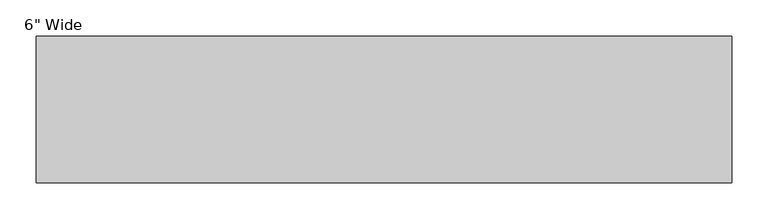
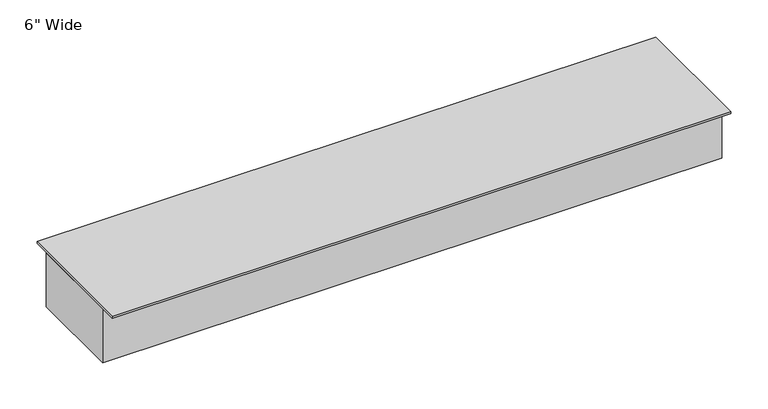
"""IFC4 building model written with IfcOpenShell, lengths in millimetres: proxy geometry."""

from ifc_helpers import new_model, si_unit, frame, origin, place, context, project, spatial, polyline, outline, extrude, source, transform, mapped, element, save


def proxy_89a9898e(model_context):
    return source(origin(), model_context, "Body", "SweptSolid", [
        extrude(outline(polyline([(965.2, 101.6), (965.2, -101.6), (0.0, -101.6), (0.0, 101.6), (965.2, 101.6)])), frame((0.0, 0.0, -3.175), z_axis=(0.0, 0.0, 1.0), x_axis=(1.0, 0.0, 0.0)), (0.0, 0.0, 1.0), 3.175),
        extrude(outline(polyline([(965.2, 76.2), (965.2, -76.2), (0.0, -76.2), (0.0, 76.2), (965.2, 76.2)])), frame((0.0, 0.0, -92.075), z_axis=(0.0, 0.0, 1.0), x_axis=(1.0, 0.0, 0.0)), (0.0, 0.0, 1.0), 88.9),
    ])


if __name__ == "__main__":
    model = new_model("IFC4")
    model_context = context("Model", 3, world=origin())
    ifc_project = project(units=[si_unit("LENGTHUNIT", "METRE", prefix="MILLI")], contexts=[model_context])
    site = spatial("IfcSite", under=ifc_project)
    building = spatial("IfcBuilding", under=site)
    placement = place(None, origin())
    proxy_shape = proxy_89a9898e(model_context)
    element("IfcBuildingElementProxy", 1, Name="Duct-Wallduct-Wiremold : 6\" Wide", ObjectType="Duct-Wallduct-Wiremold : 6\" Wide", at=placement, inside=building, context=model_context, shape_type="MappedRepresentation", body=[
        mapped(proxy_shape, transform((0.0, 0.0, 0.0), x_axis=(1.0, 0.0, 0.0), y_axis=(0.0, 1.0, 0.0), z_axis=(0.0, 0.0, 1.0))),
    ])
    save(model, "model.ifc")
